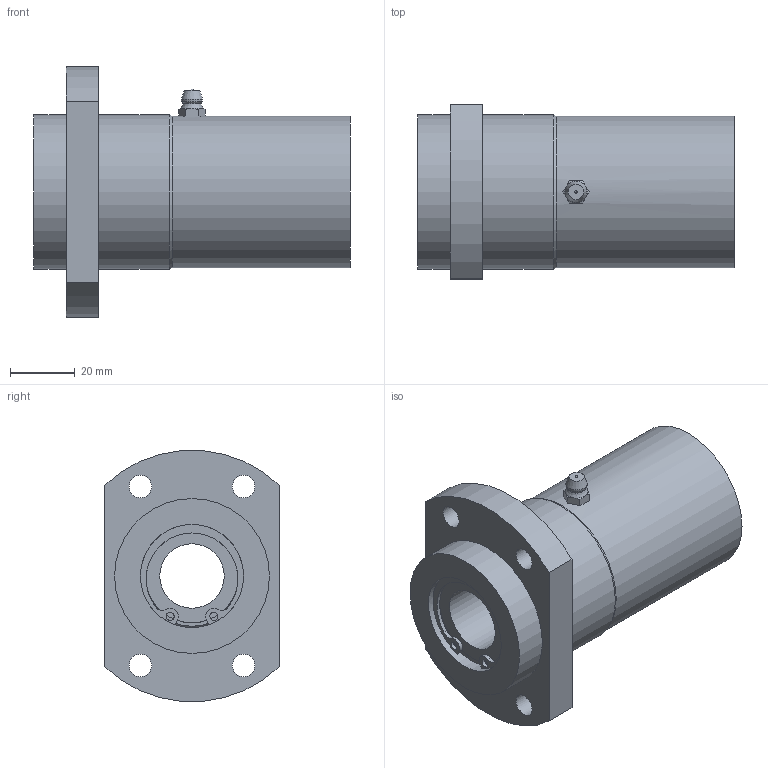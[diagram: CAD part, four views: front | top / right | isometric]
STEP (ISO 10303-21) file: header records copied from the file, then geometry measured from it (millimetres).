
FILE_DESCRIPTION((''),'2;1');
FILE_NAME('D:\製品 (図面)\カタログ用3D\リニアベアリング関連(改)\STEP形式\LFWB\LFWB20.stp','2010-01-22T16:27:08',('Tsuchiya'),(''),'Autodesk Inventor 10','Autodesk Inventor 10','');
FILE_SCHEMA(('AUTOMOTIVE_DESIGN { 1 0 10303 214 1 1 1 1 }'));
Length unit declared in the file: millimetre
Products named in the file (1): LFWB20
Bounding box: 98 x 54 x 77.72 mm (x, y, z)
Volume: 157994.1 mm3; surface area: 34029.6 mm2
Topology: 1 solids, 7 shells, 112 faces, 262 edges, 163 vertices
Faces by surface type: bspline 36, plane 34, cylinder 30, cone 8, sphere 2, torus 2
Full cylindrical faces by diameter (mm): 2.5 x2, 7 x4, 20 x2, 29 x2, 30.3 x2, 32 x8, 47 x1, 48 x2
Entity records: 3205 total; most frequent: CARTESIAN_POINT 903, DIRECTION 482, ORIENTED_EDGE 400, AXIS2_PLACEMENT_3D 217, EDGE_CURVE 200, EDGE_LOOP 188, VERTEX_POINT 144, CIRCLE 136
